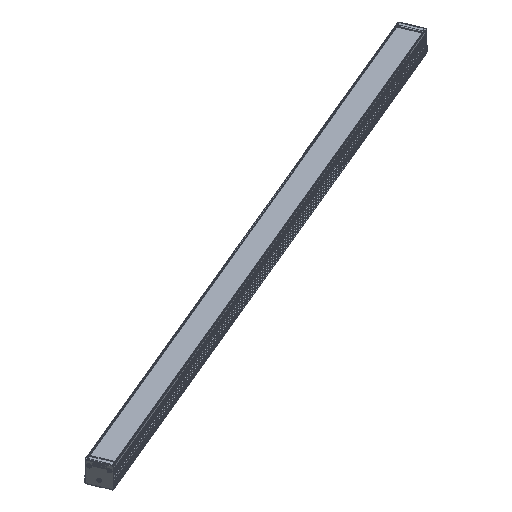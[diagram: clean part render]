
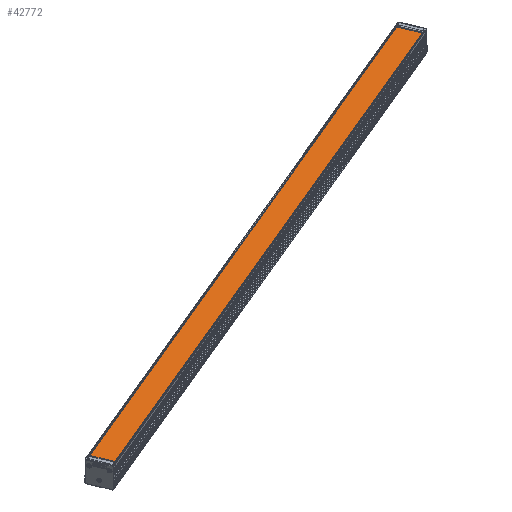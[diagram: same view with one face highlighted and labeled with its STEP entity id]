
A CAD part, isometric view. The second image highlights one B-rep face of the part: STEP entity #42772.
In plain terms, the highlighted planar face has unit normal (0, 0, 1) as drawn and (0, -1, 0) by its records, which use the part's own axes.
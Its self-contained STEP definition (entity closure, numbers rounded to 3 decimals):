
#2181 = ORIENTED_EDGE ( 'NONE', *, *, #45243, .T. ) ;
#4097 = CARTESIAN_POINT ( 'NONE',  ( 24., -23.4, 0. ) ) ;
#5530 = CARTESIAN_POINT ( 'NONE',  ( 24., -23.4, 0. ) ) ;
#6387 = EDGE_CURVE ( 'NONE', #15949, #50625, #34090, .T. ) ;
#7978 = CARTESIAN_POINT ( 'NONE',  ( 24., -23.4, 1323. ) ) ;
#11681 = DIRECTION ( 'NONE',  ( 0., 0., -1. ) ) ;
#13175 = VECTOR ( 'NONE', #15793, 1000. ) ;
#14356 = VECTOR ( 'NONE', #23083, 1000. ) ;
#14382 = CARTESIAN_POINT ( 'NONE',  ( -24., -23.4, 1323. ) ) ;
#15793 = DIRECTION ( 'NONE',  ( 0., 0., -1. ) ) ;
#15949 = VERTEX_POINT ( 'NONE', #5530 ) ;
#18402 = CARTESIAN_POINT ( 'NONE',  ( -24., -23.4, 0. ) ) ;
#22751 = VECTOR ( 'NONE', #24384, 1000. ) ;
#23083 = DIRECTION ( 'NONE',  ( 0., 0., -1. ) ) ;
#23817 = CARTESIAN_POINT ( 'NONE',  ( 24., -23.4, 1323. ) ) ;
#23844 = ORIENTED_EDGE ( 'NONE', *, *, #55480, .T. ) ;
#24384 = DIRECTION ( 'NONE',  ( -1., 0., 0. ) ) ;
#25121 = DIRECTION ( 'NONE',  ( -1., 0., 0. ) ) ;
#26586 = LINE ( 'NONE', #48456, #14356 ) ;
#28215 = ORIENTED_EDGE ( 'NONE', *, *, #6387, .F. ) ;
#28934 = CARTESIAN_POINT ( 'NONE',  ( 24., -23.4, 1371.094 ) ) ;
#29985 = VECTOR ( 'NONE', #25121, 1000. ) ;
#31359 = VERTEX_POINT ( 'NONE', #14382 ) ;
#33269 = FACE_OUTER_BOUND ( 'NONE', #47694, .T. ) ;
#33547 = PLANE ( 'NONE',  #43921 ) ;
#34090 = LINE ( 'NONE', #4097, #29985 ) ;
#37723 = LINE ( 'NONE', #51252, #13175 ) ;
#41037 = DIRECTION ( 'NONE',  ( 0., -1., 0. ) ) ;
#42772 = ADVANCED_FACE ( 'NONE', ( #33269 ), #33547, .T. ) ;
#42789 = LINE ( 'NONE', #7978, #22751 ) ;
#43921 = AXIS2_PLACEMENT_3D ( 'NONE', #28934, #41037, #11681 ) ;
#45243 = EDGE_CURVE ( 'NONE', #53982, #31359, #42789, .T. ) ;
#47694 = EDGE_LOOP ( 'NONE', ( #54208, #2181, #23844, #28215 ) ) ;
#48456 = CARTESIAN_POINT ( 'NONE',  ( -24., -23.4, 1371.094 ) ) ;
#50625 = VERTEX_POINT ( 'NONE', #18402 ) ;
#50785 = EDGE_CURVE ( 'NONE', #53982, #15949, #37723, .T. ) ;
#51252 = CARTESIAN_POINT ( 'NONE',  ( 24., -23.4, 1371.094 ) ) ;
#53982 = VERTEX_POINT ( 'NONE', #23817 ) ;
#54208 = ORIENTED_EDGE ( 'NONE', *, *, #50785, .F. ) ;
#55480 = EDGE_CURVE ( 'NONE', #31359, #50625, #26586, .T. ) ;
